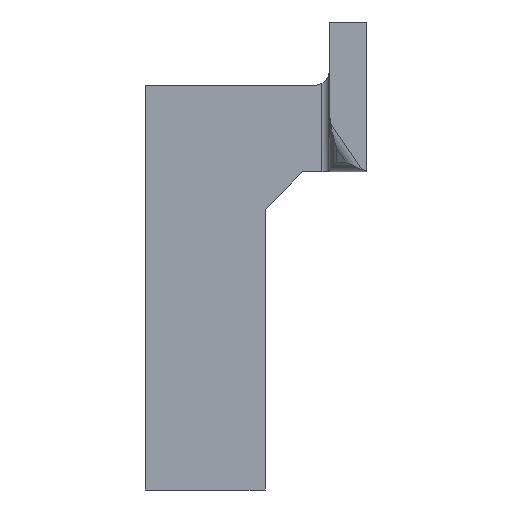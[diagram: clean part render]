
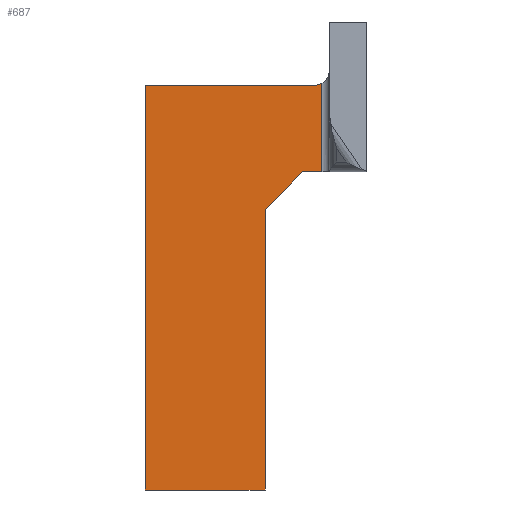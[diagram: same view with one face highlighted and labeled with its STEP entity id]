
A CAD part, front view. The second image highlights one B-rep face of the part: STEP entity #687.
In plain terms, the highlighted planar face has unit normal (0, -1, 0).
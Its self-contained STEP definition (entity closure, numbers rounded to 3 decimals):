
#60 = LINE ( 'NONE', #1728, #433 ) ;
#68 = ORIENTED_EDGE ( 'NONE', *, *, #1618, .F. ) ;
#124 = CARTESIAN_POINT ( 'NONE',  ( -21.5, -45., 7.413 ) ) ;
#141 = DIRECTION ( 'NONE',  ( -1., 0., 0. ) ) ;
#234 = LINE ( 'NONE', #1519, #1172 ) ;
#243 = CARTESIAN_POINT ( 'NONE',  ( -42.5, -45., -35.044 ) ) ;
#261 = DIRECTION ( 'NONE',  ( -1., 0., 0. ) ) ;
#281 = CARTESIAN_POINT ( 'NONE',  ( -18.932, -45., 7.413 ) ) ;
#287 = VECTOR ( 'NONE', #1320, 1000. ) ;
#299 = CARTESIAN_POINT ( 'NONE',  ( -26.5, -45., 2.413 ) ) ;
#333 = CARTESIAN_POINT ( 'NONE',  ( -21.5, -45., 7.413 ) ) ;
#381 = CARTESIAN_POINT ( 'NONE',  ( -42.5, -45., 18.956 ) ) ;
#433 = VECTOR ( 'NONE', #1335, 1000. ) ;
#475 = EDGE_CURVE ( 'NONE', #1225, #1520, #234, .T. ) ;
#498 = DIRECTION ( 'NONE',  ( 0., 0., -1. ) ) ;
#558 = LINE ( 'NONE', #381, #707 ) ;
#590 = AXIS2_PLACEMENT_3D ( 'NONE', #1193, #1987, #657 ) ;
#645 = VERTEX_POINT ( 'NONE', #299 ) ;
#657 = DIRECTION ( 'NONE',  ( 0., 0., -1. ) ) ;
#685 = FACE_OUTER_BOUND ( 'NONE', #844, .T. ) ;
#687 = ADVANCED_FACE ( 'NONE', ( #685 ), #2170, .T. ) ;
#707 = VECTOR ( 'NONE', #736, 1000. ) ;
#718 = ORIENTED_EDGE ( 'NONE', *, *, #475, .T. ) ;
#736 = DIRECTION ( 'NONE',  ( 0., 0., -1. ) ) ;
#754 = DIRECTION ( 'NONE',  ( 0., 0., 1. ) ) ;
#791 = VERTEX_POINT ( 'NONE', #2202 ) ;
#844 = EDGE_LOOP ( 'NONE', ( #68, #718, #2358, #1376, #2307, #2132, #2288, #1032 ) ) ;
#868 = VECTOR ( 'NONE', #261, 1000. ) ;
#966 = LINE ( 'NONE', #243, #1641 ) ;
#1022 = CARTESIAN_POINT ( 'NONE',  ( 0., -45., 18.956 ) ) ;
#1032 = ORIENTED_EDGE ( 'NONE', *, *, #1672, .T. ) ;
#1038 = VERTEX_POINT ( 'NONE', #333 ) ;
#1060 = CARTESIAN_POINT ( 'NONE',  ( -19.932, -45., 20.956 ) ) ;
#1094 = AXIS2_PLACEMENT_3D ( 'NONE', #1060, #1253, #498 ) ;
#1128 = EDGE_CURVE ( 'NONE', #1983, #2313, #558, .T. ) ;
#1159 = VERTEX_POINT ( 'NONE', #2270 ) ;
#1172 = VECTOR ( 'NONE', #754, 1000. ) ;
#1193 = CARTESIAN_POINT ( 'NONE',  ( 0., -45., 0. ) ) ;
#1202 = CARTESIAN_POINT ( 'NONE',  ( -18.932, -45., 19.224 ) ) ;
#1218 = LINE ( 'NONE', #124, #287 ) ;
#1225 = VERTEX_POINT ( 'NONE', #281 ) ;
#1253 = DIRECTION ( 'NONE',  ( 0., 1., 0. ) ) ;
#1320 = DIRECTION ( 'NONE',  ( 0.707, 0., 0.707 ) ) ;
#1335 = DIRECTION ( 'NONE',  ( 0., 0., 1. ) ) ;
#1337 = EDGE_CURVE ( 'NONE', #1520, #791, #1989, .T. ) ;
#1376 = ORIENTED_EDGE ( 'NONE', *, *, #1468, .T. ) ;
#1385 = DIRECTION ( 'NONE',  ( 1., 0., 0. ) ) ;
#1412 = LINE ( 'NONE', #1434, #2379 ) ;
#1434 = CARTESIAN_POINT ( 'NONE',  ( -17.932, -45., 7.413 ) ) ;
#1468 = EDGE_CURVE ( 'NONE', #791, #1983, #1550, .T. ) ;
#1519 = CARTESIAN_POINT ( 'NONE',  ( -18.932, -45., 20.956 ) ) ;
#1520 = VERTEX_POINT ( 'NONE', #1202 ) ;
#1550 = LINE ( 'NONE', #1022, #868 ) ;
#1618 = EDGE_CURVE ( 'NONE', #1225, #1038, #1412, .T. ) ;
#1641 = VECTOR ( 'NONE', #1385, 1000. ) ;
#1672 = EDGE_CURVE ( 'NONE', #645, #1038, #1218, .T. ) ;
#1728 = CARTESIAN_POINT ( 'NONE',  ( -26.5, -45., -35.044 ) ) ;
#1942 = EDGE_CURVE ( 'NONE', #1159, #645, #60, .T. ) ;
#1983 = VERTEX_POINT ( 'NONE', #2315 ) ;
#1987 = DIRECTION ( 'NONE',  ( 0., -1., 0. ) ) ;
#1989 = CIRCLE ( 'NONE', #1094, 2. ) ;
#2132 = ORIENTED_EDGE ( 'NONE', *, *, #2363, .T. ) ;
#2170 = PLANE ( 'NONE',  #590 ) ;
#2202 = CARTESIAN_POINT ( 'NONE',  ( -19.932, -45., 18.956 ) ) ;
#2270 = CARTESIAN_POINT ( 'NONE',  ( -26.5, -45., -35.044 ) ) ;
#2288 = ORIENTED_EDGE ( 'NONE', *, *, #1942, .T. ) ;
#2301 = CARTESIAN_POINT ( 'NONE',  ( -42.5, -45., -35.044 ) ) ;
#2307 = ORIENTED_EDGE ( 'NONE', *, *, #1128, .T. ) ;
#2313 = VERTEX_POINT ( 'NONE', #2301 ) ;
#2315 = CARTESIAN_POINT ( 'NONE',  ( -42.5, -45., 18.956 ) ) ;
#2358 = ORIENTED_EDGE ( 'NONE', *, *, #1337, .T. ) ;
#2363 = EDGE_CURVE ( 'NONE', #2313, #1159, #966, .T. ) ;
#2379 = VECTOR ( 'NONE', #141, 1000. ) ;
